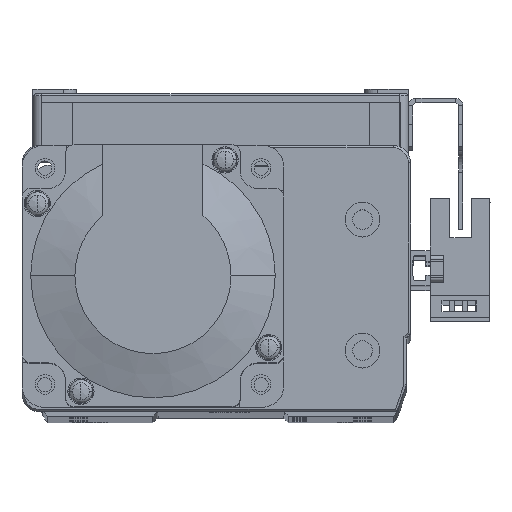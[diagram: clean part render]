
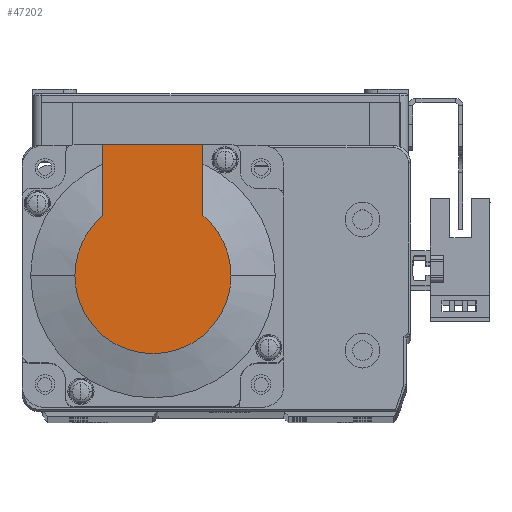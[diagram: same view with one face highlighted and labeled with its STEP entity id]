
A CAD part, top view. The second image highlights one B-rep face of the part: STEP entity #47202.
In plain terms, the highlighted planar face has unit normal (0, 0, 1) as drawn and (-1, 0, 0) by its records, which use the part's own axes.
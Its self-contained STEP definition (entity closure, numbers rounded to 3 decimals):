
#665 = FACE_OUTER_BOUND ( 'NONE', #5428, .T. ) ;
#4360 = AXIS2_PLACEMENT_3D ( 'NONE', #25846, #25866, #25876 ) ;
#5428 = EDGE_LOOP ( 'NONE', ( #9118, #9019, #9077, #9099, #9128, #9122 ) ) ;
#9019 = ORIENTED_EDGE ( 'NONE', *, *, #43351, .T. ) ;
#9077 = ORIENTED_EDGE ( 'NONE', *, *, #43097, .T. ) ;
#9099 = ORIENTED_EDGE ( 'NONE', *, *, #43055, .T. ) ;
#9118 = ORIENTED_EDGE ( 'NONE', *, *, #42669, .T. ) ;
#9122 = ORIENTED_EDGE ( 'NONE', *, *, #42630, .F. ) ;
#9128 = ORIENTED_EDGE ( 'NONE', *, *, #42663, .F. ) ;
#12782 = CARTESIAN_POINT ( 'NONE',  ( -99., 30., 25. ) ) ;
#12795 = DIRECTION ( 'NONE',  ( 0., 0., 1. ) ) ;
#12824 = CARTESIAN_POINT ( 'NONE',  ( -99., 0., 11.45 ) ) ;
#12830 = DIRECTION ( 'NONE',  ( 0., -1., 0. ) ) ;
#12872 = CARTESIAN_POINT ( 'NONE',  ( -99., -8.941, -11.45 ) ) ;
#12892 = DIRECTION ( 'NONE',  ( 0., -1., 0. ) ) ;
#15218 = AXIS2_PLACEMENT_3D ( 'NONE', #42324, #42336, #42308 ) ;
#15234 = AXIS2_PLACEMENT_3D ( 'NONE', #42395, #42399, #42404 ) ;
#15282 = AXIS2_PLACEMENT_3D ( 'NONE', #19017, #19034, #19048 ) ;
#19017 = CARTESIAN_POINT ( 'NONE',  ( -99., 0., 0. ) ) ;
#19034 = DIRECTION ( 'NONE',  ( -1., 0., 0. ) ) ;
#19048 = DIRECTION ( 'NONE',  ( 0., 0., -1. ) ) ;
#20945 = VERTEX_POINT ( 'NONE', #31508 ) ;
#20978 = VERTEX_POINT ( 'NONE', #31595 ) ;
#20994 = VERTEX_POINT ( 'NONE', #31579 ) ;
#22327 = CARTESIAN_POINT ( 'NONE',  ( -99., 13.735, 11.45 ) ) ;
#22366 = CARTESIAN_POINT ( 'NONE',  ( -99., 0., -17.881 ) ) ;
#22384 = CARTESIAN_POINT ( 'NONE',  ( -99., 0., 17.881 ) ) ;
#25840 = PLANE ( 'NONE',  #4360 ) ;
#25846 = CARTESIAN_POINT ( 'NONE',  ( -99., -8.941, 0. ) ) ;
#25866 = DIRECTION ( 'NONE',  ( -1., 0., 0. ) ) ;
#25876 = DIRECTION ( 'NONE',  ( 0., 0., 1. ) ) ;
#28609 = VERTEX_POINT ( 'NONE', #22327 ) ;
#28677 = VERTEX_POINT ( 'NONE', #22384 ) ;
#28694 = VERTEX_POINT ( 'NONE', #22366 ) ;
#31508 = CARTESIAN_POINT ( 'NONE',  ( -99., 13.735, -11.45 ) ) ;
#31579 = CARTESIAN_POINT ( 'NONE',  ( -99., 30., -11.45 ) ) ;
#31595 = CARTESIAN_POINT ( 'NONE',  ( -99., 30., 11.45 ) ) ;
#35820 = CIRCLE ( 'NONE', #15282, 17.881 ) ;
#38503 = VECTOR ( 'NONE', #12795, 1000. ) ;
#38532 = LINE ( 'NONE', #12782, #38503 ) ;
#38582 = LINE ( 'NONE', #12824, #38595 ) ;
#38592 = LINE ( 'NONE', #12872, #38593 ) ;
#38593 = VECTOR ( 'NONE', #12892, 1000. ) ;
#38595 = VECTOR ( 'NONE', #12830, 1000. ) ;
#42308 = DIRECTION ( 'NONE',  ( 0., 0., -1. ) ) ;
#42324 = CARTESIAN_POINT ( 'NONE',  ( -99., 0., 0. ) ) ;
#42336 = DIRECTION ( 'NONE',  ( -1., 0., 0. ) ) ;
#42395 = CARTESIAN_POINT ( 'NONE',  ( -99., 0., 0. ) ) ;
#42399 = DIRECTION ( 'NONE',  ( -1., 0., 0. ) ) ;
#42404 = DIRECTION ( 'NONE',  ( 0., 0., -1. ) ) ;
#42630 = EDGE_CURVE ( 'NONE', #20994, #20978, #38532, .T. ) ;
#42663 = EDGE_CURVE ( 'NONE', #20978, #28609, #38582, .T. ) ;
#42669 = EDGE_CURVE ( 'NONE', #20994, #20945, #38592, .T. ) ;
#43055 = EDGE_CURVE ( 'NONE', #28677, #28609, #49189, .T. ) ;
#43097 = EDGE_CURVE ( 'NONE', #28694, #28677, #49233, .T. ) ;
#43351 = EDGE_CURVE ( 'NONE', #20945, #28694, #35820, .T. ) ;
#47202 = ADVANCED_FACE ( 'NONE', ( #665 ), #25840, .T. ) ;
#49189 = CIRCLE ( 'NONE', #15218, 17.881 ) ;
#49233 = CIRCLE ( 'NONE', #15234, 17.881 ) ;
